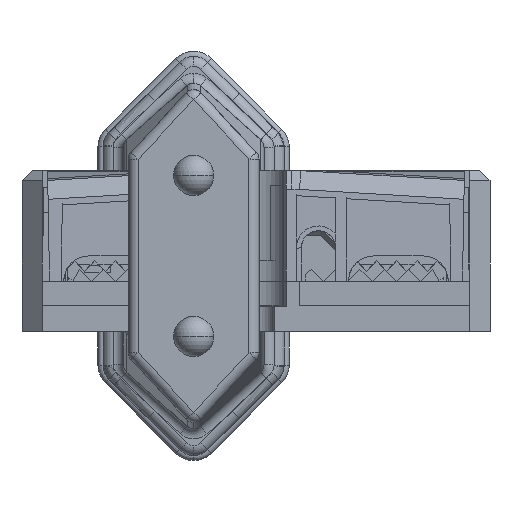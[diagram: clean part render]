
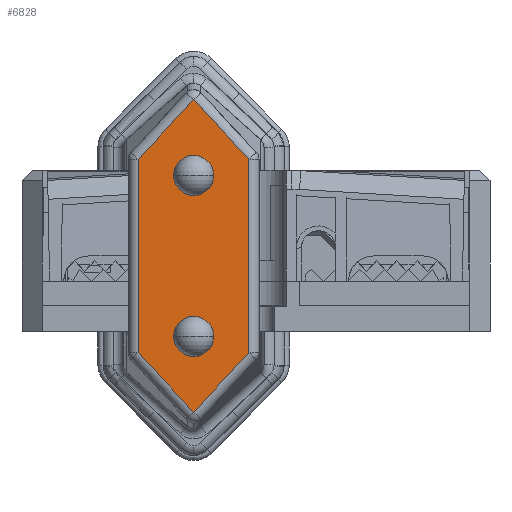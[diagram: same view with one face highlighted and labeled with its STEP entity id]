
A CAD part, left-side view. The second image highlights one B-rep face of the part: STEP entity #6828.
In plain terms, the highlighted planar face has unit normal (-1, 0, 0) as drawn and (0, 0, 1) by its records, which use the part's own axes.
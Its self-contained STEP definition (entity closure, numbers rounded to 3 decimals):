
#378 = LINE ( 'NONE', #8979, #11201 ) ;
#460 = CARTESIAN_POINT ( 'NONE',  ( -5.5, -10., 68.5 ) ) ;
#872 = PLANE ( 'NONE',  #1588 ) ;
#1588 = AXIS2_PLACEMENT_3D ( 'NONE', #12580, #28696, #22994 ) ;
#1680 = CARTESIAN_POINT ( 'NONE',  ( 5.5, -9.607, 68.5 ) ) ;
#1706 = CARTESIAN_POINT ( 'NONE',  ( 0., 8., 68.5 ) ) ;
#3176 = LINE ( 'NONE', #11232, #8079 ) ;
#3447 = FACE_OUTER_BOUND ( 'NONE', #31346, .T. ) ;
#3542 = AXIS2_PLACEMENT_3D ( 'NONE', #1706, #17997, #15611 ) ;
#4226 = EDGE_CURVE ( 'NONE', #34046, #18652, #7271, .T. ) ;
#4464 = DIRECTION ( 'NONE',  ( -1., 0., 0. ) ) ;
#5741 = CARTESIAN_POINT ( 'NONE',  ( 0., -8., 68.5 ) ) ;
#6099 = DIRECTION ( 'NONE',  ( 0., 1., 0. ) ) ;
#6828 = ADVANCED_FACE ( 'NONE', ( #3447, #34756, #12217 ), #872, .T. ) ;
#7271 = CIRCLE ( 'NONE', #14303, 1.9 ) ;
#7378 = CIRCLE ( 'NONE', #13212, 1.9 ) ;
#7392 = CARTESIAN_POINT ( 'NONE',  ( 0., -8., 68.5 ) ) ;
#7684 = VECTOR ( 'NONE', #20000, 1000. ) ;
#7966 = EDGE_CURVE ( 'NONE', #16683, #29579, #8952, .T. ) ;
#8079 = VECTOR ( 'NONE', #6099, 1000. ) ;
#8836 = DIRECTION ( 'NONE',  ( 0., 0., 1. ) ) ;
#8938 = VERTEX_POINT ( 'NONE', #1680 ) ;
#8952 = LINE ( 'NONE', #25233, #28543 ) ;
#8979 = CARTESIAN_POINT ( 'NONE',  ( -0.733, 16.32, 68.5 ) ) ;
#9639 = ORIENTED_EDGE ( 'NONE', *, *, #25360, .T. ) ;
#10164 = DIRECTION ( 'NONE',  ( -0.68, -0.733, 0. ) ) ;
#10762 = EDGE_LOOP ( 'NONE', ( #14600, #24286 ) ) ;
#11201 = VECTOR ( 'NONE', #31498, 1000. ) ;
#11232 = CARTESIAN_POINT ( 'NONE',  ( 5.5, 10., 68.5 ) ) ;
#11244 = ORIENTED_EDGE ( 'NONE', *, *, #15270, .T. ) ;
#11528 = EDGE_CURVE ( 'NONE', #27633, #16683, #22221, .T. ) ;
#12217 = FACE_BOUND ( 'NONE', #10762, .T. ) ;
#12580 = CARTESIAN_POINT ( 'NONE',  ( -15.786, 0., 68.5 ) ) ;
#13212 = AXIS2_PLACEMENT_3D ( 'NONE', #7392, #32474, #4464 ) ;
#13820 = CIRCLE ( 'NONE', #20227, 1.9 ) ;
#13883 = EDGE_CURVE ( 'NONE', #35650, #23499, #7378, .T. ) ;
#14303 = AXIS2_PLACEMENT_3D ( 'NONE', #15049, #23283, #20347 ) ;
#14600 = ORIENTED_EDGE ( 'NONE', *, *, #13883, .F. ) ;
#15049 = CARTESIAN_POINT ( 'NONE',  ( 0., 8., 68.5 ) ) ;
#15192 = CIRCLE ( 'NONE', #3542, 1.9 ) ;
#15270 = EDGE_CURVE ( 'NONE', #29210, #27633, #21132, .T. ) ;
#15370 = ORIENTED_EDGE ( 'NONE', *, *, #35308, .T. ) ;
#15611 = DIRECTION ( 'NONE',  ( 1., 0., 0. ) ) ;
#16683 = VERTEX_POINT ( 'NONE', #24067 ) ;
#17073 = LINE ( 'NONE', #33775, #34871 ) ;
#17720 = CARTESIAN_POINT ( 'NONE',  ( 1.9, -8., 68.5 ) ) ;
#17997 = DIRECTION ( 'NONE',  ( 0., 0., 1. ) ) ;
#18652 = VERTEX_POINT ( 'NONE', #23301 ) ;
#20000 = DIRECTION ( 'NONE',  ( 0., -1., 0. ) ) ;
#20227 = AXIS2_PLACEMENT_3D ( 'NONE', #5741, #8836, #28603 ) ;
#20347 = DIRECTION ( 'NONE',  ( 1., 0., 0. ) ) ;
#21132 = LINE ( 'NONE', #35645, #26148 ) ;
#21456 = EDGE_LOOP ( 'NONE', ( #34030, #28225 ) ) ;
#21873 = CARTESIAN_POINT ( 'NONE',  ( -1.9, -8., 68.5 ) ) ;
#22221 = LINE ( 'NONE', #460, #7684 ) ;
#22994 = DIRECTION ( 'NONE',  ( 1., 0., 0. ) ) ;
#23177 = EDGE_CURVE ( 'NONE', #29579, #8938, #17073, .T. ) ;
#23283 = DIRECTION ( 'NONE',  ( 0., 0., 1. ) ) ;
#23301 = CARTESIAN_POINT ( 'NONE',  ( -1.9, 8., 68.5 ) ) ;
#23499 = VERTEX_POINT ( 'NONE', #17720 ) ;
#24067 = CARTESIAN_POINT ( 'NONE',  ( -5.5, -9.607, 68.5 ) ) ;
#24121 = EDGE_CURVE ( 'NONE', #23499, #35650, #13820, .T. ) ;
#24286 = ORIENTED_EDGE ( 'NONE', *, *, #24121, .F. ) ;
#24497 = VERTEX_POINT ( 'NONE', #34209 ) ;
#24741 = ORIENTED_EDGE ( 'NONE', *, *, #23177, .T. ) ;
#25233 = CARTESIAN_POINT ( 'NONE',  ( 0.733, -16.32, 68.5 ) ) ;
#25360 = EDGE_CURVE ( 'NONE', #8938, #24497, #3176, .T. ) ;
#26148 = VECTOR ( 'NONE', #10164, 1000. ) ;
#27633 = VERTEX_POINT ( 'NONE', #34263 ) ;
#28225 = ORIENTED_EDGE ( 'NONE', *, *, #4226, .F. ) ;
#28543 = VECTOR ( 'NONE', #33857, 1000. ) ;
#28603 = DIRECTION ( 'NONE',  ( -1., 0., 0. ) ) ;
#28696 = DIRECTION ( 'NONE',  ( 0., 0., 1. ) ) ;
#29210 = VERTEX_POINT ( 'NONE', #34332 ) ;
#29579 = VERTEX_POINT ( 'NONE', #32998 ) ;
#30190 = CARTESIAN_POINT ( 'NONE',  ( 1.9, 8., 68.5 ) ) ;
#31346 = EDGE_LOOP ( 'NONE', ( #24741, #9639, #15370, #11244, #35602, #36208 ) ) ;
#31498 = DIRECTION ( 'NONE',  ( -0.68, 0.733, 0. ) ) ;
#32474 = DIRECTION ( 'NONE',  ( 0., 0., 1. ) ) ;
#32998 = CARTESIAN_POINT ( 'NONE',  ( 0., -15.53, 68.5 ) ) ;
#33775 = CARTESIAN_POINT ( 'NONE',  ( 5.767, -9.32, 68.5 ) ) ;
#33857 = DIRECTION ( 'NONE',  ( 0.68, -0.733, 0. ) ) ;
#34030 = ORIENTED_EDGE ( 'NONE', *, *, #34252, .F. ) ;
#34046 = VERTEX_POINT ( 'NONE', #30190 ) ;
#34209 = CARTESIAN_POINT ( 'NONE',  ( 5.5, 9.607, 68.5 ) ) ;
#34252 = EDGE_CURVE ( 'NONE', #18652, #34046, #15192, .T. ) ;
#34263 = CARTESIAN_POINT ( 'NONE',  ( -5.5, 9.607, 68.5 ) ) ;
#34332 = CARTESIAN_POINT ( 'NONE',  ( 0., 15.53, 68.5 ) ) ;
#34756 = FACE_BOUND ( 'NONE', #21456, .T. ) ;
#34871 = VECTOR ( 'NONE', #35987, 1000. ) ;
#35308 = EDGE_CURVE ( 'NONE', #24497, #29210, #378, .T. ) ;
#35602 = ORIENTED_EDGE ( 'NONE', *, *, #11528, .T. ) ;
#35645 = CARTESIAN_POINT ( 'NONE',  ( -5.767, 9.32, 68.5 ) ) ;
#35650 = VERTEX_POINT ( 'NONE', #21873 ) ;
#35987 = DIRECTION ( 'NONE',  ( 0.68, 0.733, 0. ) ) ;
#36208 = ORIENTED_EDGE ( 'NONE', *, *, #7966, .T. ) ;
